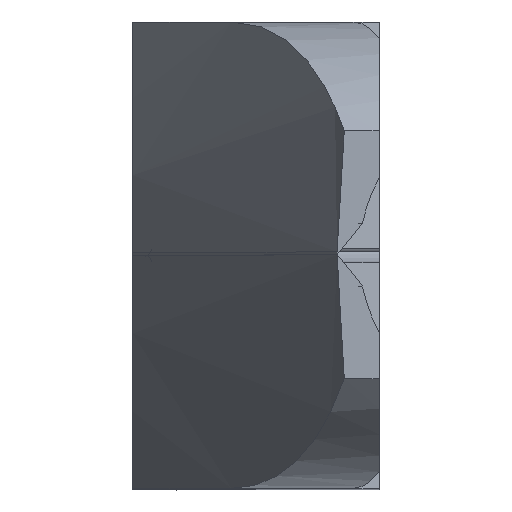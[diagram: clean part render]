
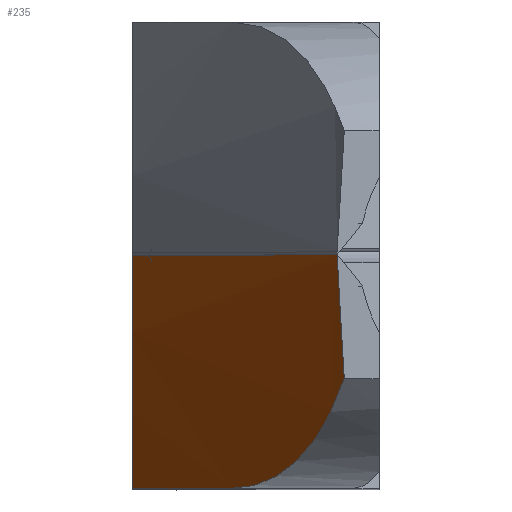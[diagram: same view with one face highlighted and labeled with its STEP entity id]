
A CAD part, top view. The second image highlights one B-rep face of the part: STEP entity #235.
In plain terms, the highlighted cylindrical face has radius 85 mm (diameter 170 mm), a partial arc.
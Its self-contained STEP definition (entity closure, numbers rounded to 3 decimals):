
#7 = CARTESIAN_POINT ( 'NONE',  ( -8.45, -15.999, 30.69 ) ) ;
#121 = CARTESIAN_POINT ( 'NONE',  ( -1.696, -15.998, 42.388 ) ) ;
#123 =( BOUNDED_CURVE ( )  B_SPLINE_CURVE ( 3, ( #1147, #1146, #1145, #1144 ),
 .UNSPECIFIED., .F., .F. ) 
 B_SPLINE_CURVE_WITH_KNOTS ( ( 4, 4 ),
 ( 3.142, 3.242 ),
 .UNSPECIFIED. ) 
 CURVE ( )  GEOMETRIC_REPRESENTATION_ITEM ( )  RATIONAL_B_SPLINE_CURVE ( ( 1., 0.999, 0.999, 1. ) ) 
 REPRESENTATION_ITEM ( '' )  );
#142 =( BOUNDED_CURVE ( )  B_SPLINE_CURVE ( 3, ( #3951, #3946, #3944, #3936 ),
 .UNSPECIFIED., .F., .T. ) 
 B_SPLINE_CURVE_WITH_KNOTS ( ( 4, 4 ),
 ( 6.283, 6.473 ),
 .UNSPECIFIED. ) 
 CURVE ( )  GEOMETRIC_REPRESENTATION_ITEM ( )  RATIONAL_B_SPLINE_CURVE ( ( 1., 0.997, 0.997, 1. ) ) 
 REPRESENTATION_ITEM ( '' )  );
#183 = B_SPLINE_CURVE_WITH_KNOTS ( 'NONE', 3,
 ( #4198, #4197, #4192, #4187, #4182, #4177, #4146, #4143, #4141, #4137, #4131, #4124, #4090, #4086 ),
 .UNSPECIFIED., .F., .F.,
 ( 4, 2, 2, 2, 2, 2, 4 ),
 ( 0., 0.005, 0.007, 0.01, 0.012, 0.015, 0.019 ),
 .UNSPECIFIED. ) ;
#235 = ADVANCED_FACE ( 'NONE', ( #2144 ), #2141, .T. ) ;
#1144 = CARTESIAN_POINT ( 'NONE',  ( 6.055, -8.498, 58. ) ) ;
#1145 = CARTESIAN_POINT ( 'NONE',  ( 5.727, -5.673, 58. ) ) ;
#1146 = CARTESIAN_POINT ( 'NONE',  ( 5.563, -2.837, 58. ) ) ;
#1147 = CARTESIAN_POINT ( 'NONE',  ( 5.563, 0.002, 58. ) ) ;
#1152 = DIRECTION ( 'NONE',  ( 0.5, 0., 0.866 ) ) ;
#1153 = CARTESIAN_POINT ( 'NONE',  ( -2.04, 0.002, 44.831 ) ) ;
#1324 = DIRECTION ( 'NONE',  ( 0.858, -0.134, -0.495 ) ) ;
#1326 = DIRECTION ( 'NONE',  ( 0.5, 0., 0.866 ) ) ;
#1328 = CARTESIAN_POINT ( 'NONE',  ( 63.754, 0., -11.211 ) ) ;
#1449 = VERTEX_POINT ( 'NONE', #2020 ) ;
#1553 = VERTEX_POINT ( 'NONE', #1991 ) ;
#1588 = VERTEX_POINT ( 'NONE', #2057 ) ;
#1619 = VERTEX_POINT ( 'NONE', #7 ) ;
#1620 = VERTEX_POINT ( 'NONE', #121 ) ;
#1991 = CARTESIAN_POINT ( 'NONE',  ( 5.563, 0.002, 58. ) ) ;
#2020 = CARTESIAN_POINT ( 'NONE',  ( 6.055, -8.498, 58. ) ) ;
#2057 = CARTESIAN_POINT ( 'NONE',  ( -8.45, 0.001, 33.728 ) ) ;
#2141 = CYLINDRICAL_SURFACE ( 'NONE', #3581, 85. ) ;
#2144 = FACE_OUTER_BOUND ( 'NONE', #2765, .T. ) ;
#2378 = ORIENTED_EDGE ( 'NONE', *, *, #3376, .F. ) ;
#2379 = ORIENTED_EDGE ( 'NONE', *, *, #3374, .F. ) ;
#2380 = ORIENTED_EDGE ( 'NONE', *, *, #3329, .F. ) ;
#2381 = ORIENTED_EDGE ( 'NONE', *, *, #3327, .F. ) ;
#2384 = ORIENTED_EDGE ( 'NONE', *, *, #3377, .T. ) ;
#2765 = EDGE_LOOP ( 'NONE', ( #2378, #2379, #2380, #2381, #2384 ) ) ;
#2815 = LINE ( 'NONE', #1153, #2816 ) ;
#2816 = VECTOR ( 'NONE', #1152, 1000. ) ;
#2849 = LINE ( 'NONE', #3996, #2850 ) ;
#2850 = VECTOR ( 'NONE', #3973, 1000. ) ;
#3327 = EDGE_CURVE ( 'NONE', #1588, #1553, #2815, .T. ) ;
#3329 = EDGE_CURVE ( 'NONE', #1553, #1449, #123, .T. ) ;
#3374 = EDGE_CURVE ( 'NONE', #1449, #1620, #183, .T. ) ;
#3376 = EDGE_CURVE ( 'NONE', #1620, #1619, #2849, .T. ) ;
#3377 = EDGE_CURVE ( 'NONE', #1588, #1619, #142, .T. ) ;
#3581 = AXIS2_PLACEMENT_3D ( 'NONE', #1328, #1326, #1324 ) ;
#3936 = CARTESIAN_POINT ( 'NONE',  ( -8.45, -15.999, 30.69 ) ) ;
#3944 = CARTESIAN_POINT ( 'NONE',  ( -8.45, -10.721, 32.713 ) ) ;
#3946 = CARTESIAN_POINT ( 'NONE',  ( -8.45, -5.372, 33.729 ) ) ;
#3951 = CARTESIAN_POINT ( 'NONE',  ( -8.45, 0.001, 33.728 ) ) ;
#3973 = DIRECTION ( 'NONE',  ( -0.5, 0., -0.866 ) ) ;
#3996 = CARTESIAN_POINT ( 'NONE',  ( -1.696, -15.998, 42.388 ) ) ;
#4086 = CARTESIAN_POINT ( 'NONE',  ( -1.696, -15.998, 42.388 ) ) ;
#4090 = CARTESIAN_POINT ( 'NONE',  ( -0.875, -15.998, 43.811 ) ) ;
#4124 = CARTESIAN_POINT ( 'NONE',  ( -0.087, -15.848, 45.234 ) ) ;
#4131 = CARTESIAN_POINT ( 'NONE',  ( 1.046, -15.382, 47.369 ) ) ;
#4137 = CARTESIAN_POINT ( 'NONE',  ( 1.412, -15.186, 48.075 ) ) ;
#4141 = CARTESIAN_POINT ( 'NONE',  ( 2.118, -14.719, 49.464 ) ) ;
#4143 = CARTESIAN_POINT ( 'NONE',  ( 2.458, -14.446, 50.149 ) ) ;
#4146 = CARTESIAN_POINT ( 'NONE',  ( 3.114, -13.819, 51.497 ) ) ;
#4177 = CARTESIAN_POINT ( 'NONE',  ( 3.43, -13.465, 52.16 ) ) ;
#4182 = CARTESIAN_POINT ( 'NONE',  ( 4.039, -12.669, 53.463 ) ) ;
#4187 = CARTESIAN_POINT ( 'NONE',  ( 4.327, -12.234, 54.092 ) ) ;
#4192 = CARTESIAN_POINT ( 'NONE',  ( 5.144, -10.822, 55.9 ) ) ;
#4197 = CARTESIAN_POINT ( 'NONE',  ( 5.626, -9.738, 57.008 ) ) ;
#4198 = CARTESIAN_POINT ( 'NONE',  ( 6.055, -8.498, 58. ) ) ;
